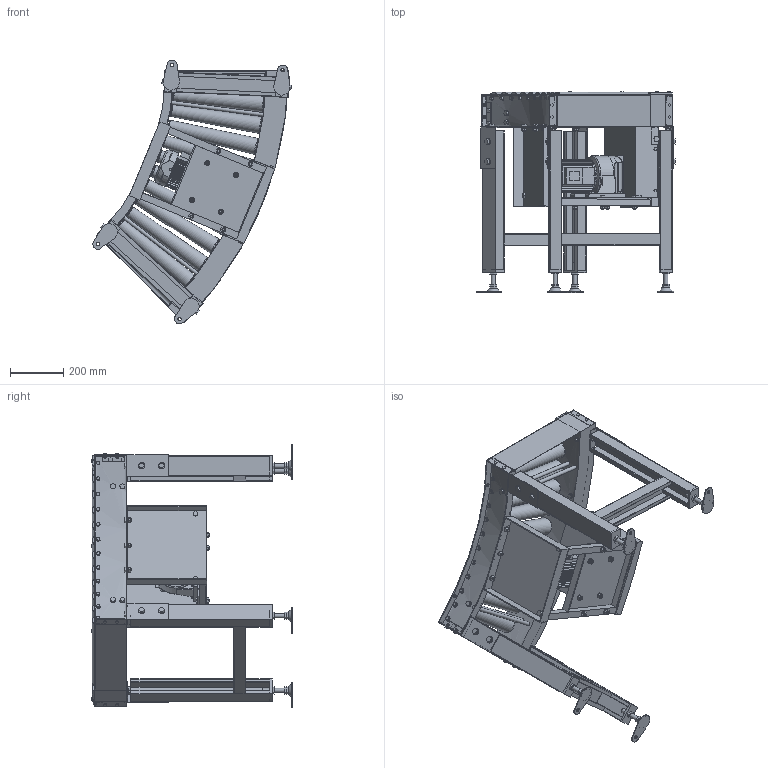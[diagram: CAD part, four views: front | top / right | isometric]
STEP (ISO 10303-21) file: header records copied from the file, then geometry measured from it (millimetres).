
FILE_DESCRIPTION( (''), '2;1');
FILE_NAME ('WEB-MCC3-45-400-75-45°-R.stp','2025-07-18T07:53:04',(''),(''),'spGate 20.6.2 (****-****-****-****)','','');
FILE_SCHEMA (('AUTOMOTIVE_DESIGN'));
Length unit declared in the file: millimetre
Products named in the file (22): WEB-MCC3-45-400-75-45_-R; TEMP_X_T-prt0; TEMP_X_T-prt1; TEMP_X_T-prt2; TEMP_X_T-prt3; TEMP_X_T-prt4; TEMP_X_T-prt5; TEMP_X_T-prt6; TEMP_X_T-prt7; TEMP_X_T-prt8; TEMP_X_T-prt9; TEMP_X_T-prt10; TEMP_X_T-prt11; TEMP_X_T-prt12; TEMP_X_T-prt13; TEMP_X_T-prt14; TEMP_X_T-prt15; TEMP_X_T-prt16; TEMP_X_T-prt17; TEMP_X_T-prt18; TEMP_X_T-prt19; TEMP_X_T-prt20
Assembly tree (21 placements, depth 2):
  WEB-MCC3-45-400-75-45_-R
    TEMP_X_T-prt0
    TEMP_X_T-prt1
    TEMP_X_T-prt2
    TEMP_X_T-prt3
    TEMP_X_T-prt4
    TEMP_X_T-prt5
    TEMP_X_T-prt6
    TEMP_X_T-prt7
    TEMP_X_T-prt8
    TEMP_X_T-prt9
    TEMP_X_T-prt10
    TEMP_X_T-prt11
    TEMP_X_T-prt12
    TEMP_X_T-prt13
    TEMP_X_T-prt14
    TEMP_X_T-prt15
    TEMP_X_T-prt16
    TEMP_X_T-prt17
    TEMP_X_T-prt18
    TEMP_X_T-prt19
    TEMP_X_T-prt20
Bounding box: 743.73 x 752.2 x 988.9 mm (x, y, z)
Volume: 30065960 mm3; surface area: 4212515.9 mm2
Topology: 21 solids, 22 shells, 2675 faces, 6876 edges, 4570 vertices
Faces by surface type: plane 2057, cylinder 531, bspline 87
Full cylindrical faces by diameter (mm): 5 x4, 6 x24, 7 x4, 8 x1, 9.2 x4, 10 x46, 10.5 x4, 12 x14, 12.2 x12, 13 x12, 13.8 x12, 15 x1, 15.4 x20, 16 x16, 17.3 x12, 18 x16, 18.4 x24, 21 x4, 21.5 x1, 24 x8, 28 x13, 31 x1, 45 x12, 63 x1, 113.2 x1, 153 x1
Entity records: 144458 total; most frequent: CARTESIAN_POINT 22773, ORIENTED_EDGE 13750, DIRECTION 13434, COLOUR_RGB 9571, PRESENTATION_STYLE_ASSIGNMENT 9571, STYLED_ITEM 9571, EDGE_CURVE 6875, DRAUGHTING_PRE_DEFINED_CURVE_FONT 6875
